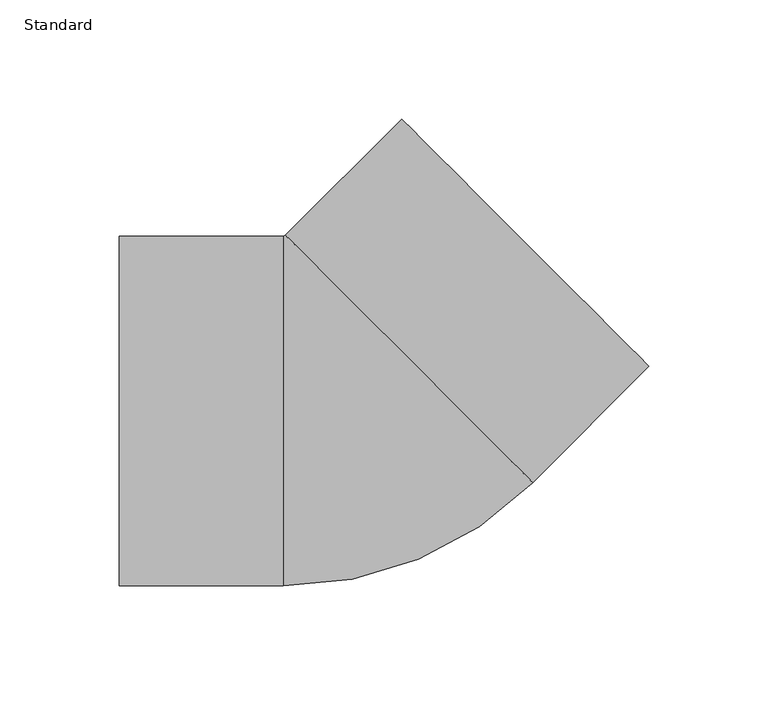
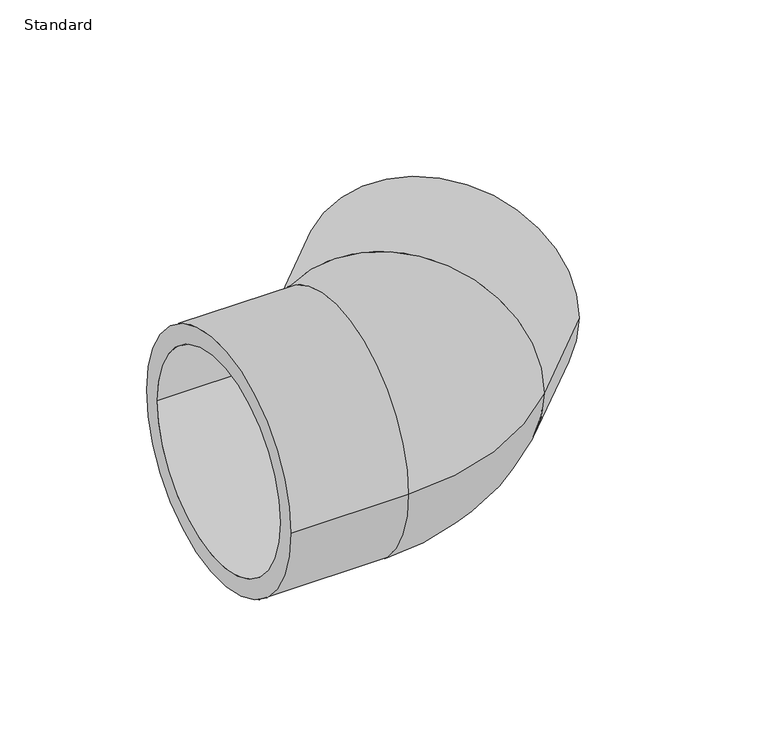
"""IFC4 building model written with IfcOpenShell, lengths in millimetres: pipe fitting geometry, Durapipe_PipeFitting_PVC_Elbow45deg : Standard."""

from ifc_helpers import new_model, si_unit, point, frame, origin, place, context, project, spatial, polyline, circle_curve, ellipse_curve, trimmed, source, transform, mapped, element, save
from ifc_brep_helpers import plane_surface, cylinder_surface, revolved_surface, advanced_brep


def standard_3abe5477(model_context):
    return source(origin(), model_context, "Body", "AdvancedBrep", [
        advanced_brep(
        [(-100.0, -73.5, 0.0), (-100.0, 73.5, 0.0), (-100.0, -62.5, 0.0), (-100.0, 62.5, 0.0), (-30.9446968, -73.5, 0.0), (-30.9446968, 73.5, 0.0), (73.8535534, -30.0911434, 0.0), (-30.0911434, 73.8535534, 0.0), (122.6830265, 18.7383297, 0.0), (18.7383297, 122.6830265, 0.0), (26.5165043, 114.9048519, 0.0), (114.9048519, 26.5165043, 0.0), (-31.0, 62.5, 0.0), (-31.0, -62.5, 0.0), (-31.0, 0.0, 0.0), (-22.2738636, 66.114484, 0.0), (21.9203102, 21.9203102, 0.0), (66.114484, -22.2738636, 0.0)],
        [
            (0, 1, circle_curve(frame((-100.0, 0.0, 0.0), z_axis=(-1.0, 0.0, 0.0), x_axis=(0.0, 1.0, 0.0)), 73.5)),
            (1, 0, circle_curve(frame((-100.0, 0.0, 0.0), z_axis=(-1.0, 0.0, 0.0), x_axis=(0.0, 1.0, 0.0)), 73.5)),
            (2, 3, circle_curve(frame((-100.0, 0.0, 0.0), z_axis=(1.0, 0.0, 0.0), x_axis=(0.0, -1.0, 0.0)), 62.5)),
            (3, 2, circle_curve(frame((-100.0, 0.0, 0.0), z_axis=(1.0, 0.0, 0.0), x_axis=(0.0, -1.0, 0.0)), 62.5)),
            (0, 4),
            (4, 5, circle_curve(frame((-30.9446968, 0.0, 0.0), z_axis=(-1.0, 0.0, 0.0), x_axis=(0.0, 1.0, 0.0)), 73.5)),
            (5, 1),
            (5, 4, circle_curve(frame((-30.9446968, 0.0, 0.0), z_axis=(-1.0, 0.0, 0.0), x_axis=(0.0, 1.0, 0.0)), 73.5)),
            (4, 6, circle_curve(frame((-30.9446968, 74.7071068, 0.0), z_axis=(0.0, 0.0, 1.0), x_axis=(0.0, -1.0, 0.0)), 148.2071068)),
            (6, 7, circle_curve(frame((21.881205, 21.881205, 0.0), z_axis=(-0.7071067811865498, -0.7071067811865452, 0.0), x_axis=(-0.7071067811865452, 0.7071067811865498, 0.0)), 73.5)),
            (7, 5, circle_curve(frame((-30.9446968, 74.7071068, 0.0), z_axis=(0.0, 0.0, -1.0), x_axis=(0.0, -1.0, 0.0)), 1.2071068)),
            (7, 6, circle_curve(frame((21.881205, 21.881205, 0.0), z_axis=(-0.707106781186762, -0.7071067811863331, 0.0), x_axis=(-0.7071067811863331, 0.707106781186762, 0.0)), 73.5)),
            (8, 9, circle_curve(frame((70.7106781, 70.7106781, 0.0), z_axis=(0.7071067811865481, 0.707106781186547, 0.0), x_axis=(-0.707106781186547, 0.7071067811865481, 0.0)), 73.5)),
            (9, 8, circle_curve(frame((70.7106781, 70.7106781, 0.0), z_axis=(0.7071067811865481, 0.707106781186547, 0.0), x_axis=(-0.707106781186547, 0.7071067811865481, 0.0)), 73.5)),
            (10, 11, circle_curve(frame((70.7106781, 70.7106781, 0.0), z_axis=(-0.707106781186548, -0.707106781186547, 0.0), x_axis=(0.707106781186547, -0.707106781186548, 0.0)), 62.5)),
            (11, 10, circle_curve(frame((70.7106781, 70.7106781, 0.0), z_axis=(-0.707106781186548, -0.707106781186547, 0.0), x_axis=(0.707106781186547, -0.707106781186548, 0.0)), 62.5)),
            (6, 8),
            (9, 7),
            (12, 3),
            (2, 13),
            (13, 12, circle_curve(frame((-31.0, 0.0, 0.0), z_axis=(1.0, 0.0, 0.0), x_axis=(0.0, -1.0, 0.0)), 62.5)),
            (12, 13, circle_curve(frame((-31.0, 0.0, 0.0), z_axis=(1.0, 0.0, 0.0), x_axis=(0.0, -1.0, 0.0)), 62.5)),
            (13, 14),
            (14, 12),
            (15, 16),
            (16, 17),
            (17, 15, circle_curve(frame((21.9203102, 21.9203102, 0.0), z_axis=(0.707106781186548, 0.707106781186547, 0.0), x_axis=(0.707106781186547, -0.707106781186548, 0.0)), 62.5)),
            (15, 17, circle_curve(frame((21.9203102, 21.9203102, 0.0), z_axis=(0.707106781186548, 0.707106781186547, 0.0), x_axis=(0.707106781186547, -0.707106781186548, 0.0)), 62.5)),
            (17, 11),
            (10, 15),
        ],
        [
            plane_surface(frame((-100.0, 0.0, 0.0), z_axis=(-1.0, 0.0, 0.0), x_axis=(0.0, 0.0, 1.0))),
            cylinder_surface(frame((-100.0, 0.0, 0.0), z_axis=(-1.0, 0.0, 0.0), x_axis=(0.0, 1.0, 0.0)), 73.5),
            revolved_surface(trimmed(ellipse_curve(frame((-30.9446968, 0.0, 0.0), z_axis=(-1.0, 0.0, 0.0), x_axis=(0.0, 1.0, 0.0)), 73.5, 73.5), [point((-30.9446968, -73.5, 0.0))], [point((-30.9446968, 73.5, 0.0))], True, "CARTESIAN"), (-30.9446968, 74.7071068, 0.0), (0.0, 0.0, 1.0)),
            revolved_surface(trimmed(ellipse_curve(frame((-30.9446968, 0.0, 0.0), z_axis=(-1.0, 0.0, 0.0), x_axis=(0.0, 1.0, 0.0)), 73.5, 73.5), [point((-30.9446968, 73.5, 0.0))], [point((-30.9446968, -73.5, 0.0))], True, "CARTESIAN"), (-30.9446968, 74.7071068, 0.0), (0.0, 0.0, 1.0)),
            plane_surface(frame((70.7106781, 70.7106781, 0.0), z_axis=(0.7071067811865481, 0.707106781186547, 0.0), x_axis=(0.0, 0.0, 1.0))),
            cylinder_surface(frame((21.881205, 21.881205, 0.0), z_axis=(-0.7071067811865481, -0.707106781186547, 0.0), x_axis=(-0.707106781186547, 0.7071067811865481, 0.0)), 73.5),
            revolved_surface(polyline([(-31.0, -62.5, 0.0), (-100.0, -62.5, 0.0)]), (2000.0, 0.0, 0.0), (1.0, 0.0, 0.0)),
            plane_surface(frame((-31.0, 0.0, 0.0), z_axis=(-1.0, 0.0, 0.0), x_axis=(0.0, -1.0, 0.0))),
            plane_surface(frame((21.9203102, 21.9203102, 0.0), z_axis=(0.707106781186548, 0.707106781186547, 0.0), x_axis=(0.707106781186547, -0.707106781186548, 0.0))),
            revolved_surface(polyline([(114.90485192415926, 26.516504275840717, 0.0), (66.11448402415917, -22.273863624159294, 0.0)]), (0.0, 0.0, 0.0), (0.707106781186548, 0.707106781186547, 0.0)),
        ],
        [
            (0, [[1, 2], [3, 4]]),
            (1, [[-1, 5, 6, 7]]),
            (1, [[-2, -7, 8, -5]]),
            (2, [[-6, 9, 10, 11]]),
            (3, [[-8, -11, 12, -9]]),
            (4, [[13, 14], [15, 16]]),
            (5, [[-10, 17, -14, 18]]),
            (5, [[-12, -18, -13, -17]]),
            (6, [[19, -3, 20, 21]]),
            (6, [[-19, 22, -20, -4]]),
            (7, [[-21, 23, 24]]),
            (7, [[-22, -24, -23]]),
            (8, [[25, 26, 27]]),
            (8, [[-25, 28, -26]]),
            (9, [[-27, 29, -15, 30]]),
            (9, [[-28, -30, -16, -29]]),
        ],
    ),
    ])


if __name__ == "__main__":
    model = new_model("IFC4")
    model_context = context("Model", 3, world=origin())
    ifc_project = project(units=[si_unit("LENGTHUNIT", "METRE", prefix="MILLI")], contexts=[model_context])
    site = spatial("IfcSite", under=ifc_project)
    building = spatial("IfcBuilding", under=site)
    placement = place(None, origin())
    standard_shape = standard_3abe5477(model_context)
    element("IfcPipeFitting", 1, ObjectType="Durapipe_PipeFitting_PVC_Elbow45deg : Standard", at=placement, inside=building, context=model_context, shape_type="MappedRepresentation", body=[
        mapped(standard_shape, transform((0.0, 0.0, 0.0), x_axis=(1.0, 0.0, 0.0), y_axis=(0.0, 1.0, 0.0), z_axis=(0.0, 0.0, 1.0))),
    ])
    save(model, "model.ifc")
